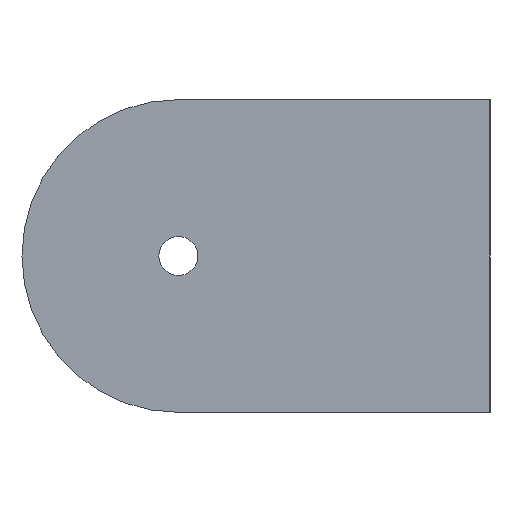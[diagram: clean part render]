
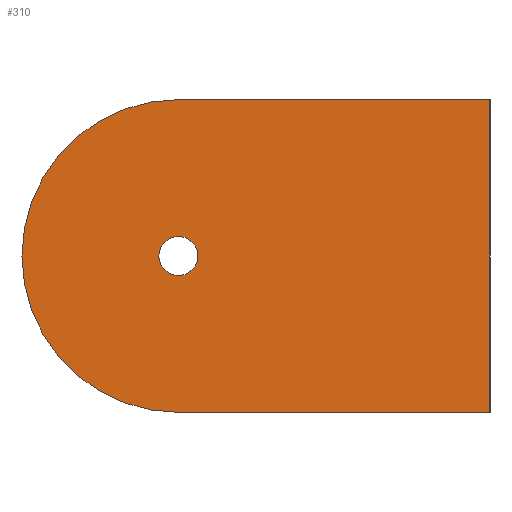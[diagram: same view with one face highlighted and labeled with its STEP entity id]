
A CAD part, left-side view. The second image highlights one B-rep face of the part: STEP entity #310.
In plain terms, the highlighted planar face has unit normal (-1, 0, 0).
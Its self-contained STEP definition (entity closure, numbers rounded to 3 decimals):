
#32=FACE_BOUND('',#72,.T.);
#40=PLANE('',#360);
#52=FACE_OUTER_BOUND('',#71,.T.);
#71=EDGE_LOOP('',(#248,#249,#250,#251));
#72=EDGE_LOOP('',(#252));
#100=LINE('',#530,#126);
#101=LINE('',#531,#127);
#102=LINE('',#532,#128);
#126=VECTOR('',#430,10.);
#127=VECTOR('',#431,10.);
#128=VECTOR('',#432,10.);
#143=CIRCLE('',#357,1.5);
#144=CIRCLE('',#359,12.);
#166=VERTEX_POINT('',#518);
#167=VERTEX_POINT('',#522);
#168=VERTEX_POINT('',#523);
#169=VERTEX_POINT('',#528);
#170=VERTEX_POINT('',#529);
#196=EDGE_CURVE('',#166,#166,#143,.T.);
#197=EDGE_CURVE('',#167,#168,#144,.T.);
#200=EDGE_CURVE('',#169,#170,#100,.T.);
#201=EDGE_CURVE('',#169,#168,#101,.T.);
#202=EDGE_CURVE('',#170,#167,#102,.T.);
#248=ORIENTED_EDGE('',*,*,#200,.F.);
#249=ORIENTED_EDGE('',*,*,#201,.T.);
#250=ORIENTED_EDGE('',*,*,#197,.F.);
#251=ORIENTED_EDGE('',*,*,#202,.F.);
#252=ORIENTED_EDGE('',*,*,#196,.F.);
#310=ADVANCED_FACE('',(#52,#32),#40,.F.);
#357=AXIS2_PLACEMENT_3D('',#520,#420,#421);
#359=AXIS2_PLACEMENT_3D('',#524,#424,#425);
#360=AXIS2_PLACEMENT_3D('',#527,#428,#429);
#420=DIRECTION('center_axis',(-1.,0.,0.));
#421=DIRECTION('ref_axis',(0.,0.,-1.));
#424=DIRECTION('center_axis',(1.,0.,0.));
#425=DIRECTION('ref_axis',(0.,0.,-1.));
#428=DIRECTION('center_axis',(1.,0.,0.));
#429=DIRECTION('ref_axis',(0.,0.,-1.));
#430=DIRECTION('',(0.,0.,-1.));
#431=DIRECTION('',(0.,1.,0.));
#432=DIRECTION('',(0.,1.,0.));
#518=CARTESIAN_POINT('',(-41.,61.995,-71.508));
#520=CARTESIAN_POINT('Origin',(-41.,61.995,-73.008));
#522=CARTESIAN_POINT('',(-41.,61.995,-85.008));
#523=CARTESIAN_POINT('',(-41.,61.995,-61.008));
#524=CARTESIAN_POINT('Origin',(-41.,61.995,-73.008));
#527=CARTESIAN_POINT('Origin',(-41.,56.039,-73.008));
#528=CARTESIAN_POINT('',(-41.,38.083,-61.008));
#529=CARTESIAN_POINT('',(-41.,38.083,-85.008));
#530=CARTESIAN_POINT('',(-41.,38.083,-73.008));
#531=CARTESIAN_POINT('',(-41.,38.083,-61.008));
#532=CARTESIAN_POINT('',(-41.,38.083,-85.008));
